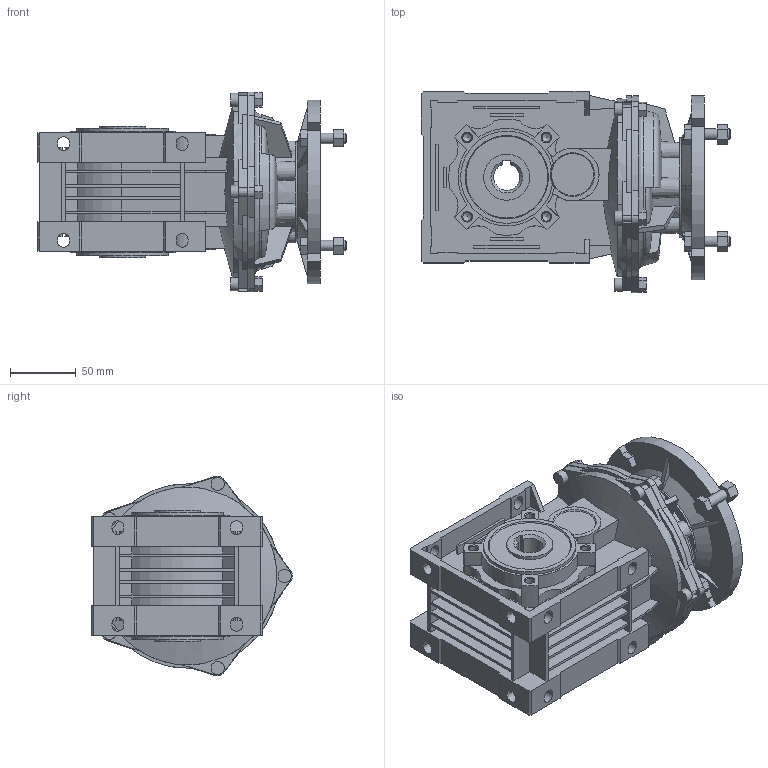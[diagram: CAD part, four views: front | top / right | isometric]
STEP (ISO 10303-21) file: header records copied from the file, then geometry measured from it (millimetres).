
FILE_DESCRIPTION(/* description */ ('STEP AP214'),/* implementation_level */ '2;1');
FILE_NAME(/* name */ 'BA42C63 B5200000NO0NO----(---------------)',/* time_stamp */ '2024-10-29T10:03:55+01:00',/* author */ ('License CC BY-ND 4.0'),/* organization */ ('CADENAS'),/* preprocessor_version */ 'ST-DEVELOPER v19.3',/* originating_system */ 'PARTsolutions',/* authorisation */ ' ');
FILE_SCHEMA (('AUTOMOTIVE_DESIGN {1 0 10303 214 3 1 1}'));
Length unit declared in the file: millimetre
Products named in the file (6): BA42C63 B5200000NO0NO----(---------------); A42-U-35; A42-20-C; A42-BA-11; A42-63 B5-B; BA42-11
Assembly tree (5 placements, depth 2):
  BA42C63 B5200000NO0NO----(---------------)
    A42-U-35
    A42-20-C
    A42-BA-11
    A42-63 B5-B
    BA42-11
Bounding box: 234.96 x 152.43 x 151.69 mm (x, y, z)
Volume: 1697884.6 mm3; surface area: 333778.1 mm2
Topology: 5 solids, 5 shells, 933 faces, 2529 edges, 1669 vertices
Faces by surface type: plane 670, cylinder 182, cone 70, torus 11
Full cylindrical faces by diameter (mm): 3.627 x3, 6 x5, 6.647 x8, 8 x8, 10 x11, 25 x1, 35 x2, 47 x2, 55 x2, 76 x1, 93 x1, 95 x1, 128 x2
Entity records: 35483 total; most frequent: CARTESIAN_POINT 5564, ORIENTED_EDGE 4870, DIRECTION 4688, EDGE_CURVE 2435, LINE 1742, VECTOR 1742, VERTEX_POINT 1656, AXIS2_PLACEMENT_3D 1473
